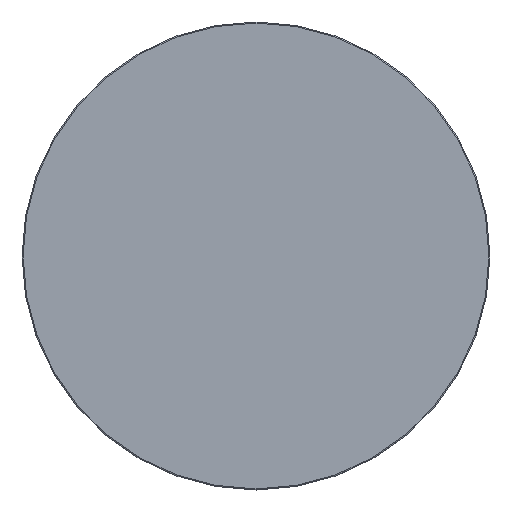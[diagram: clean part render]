
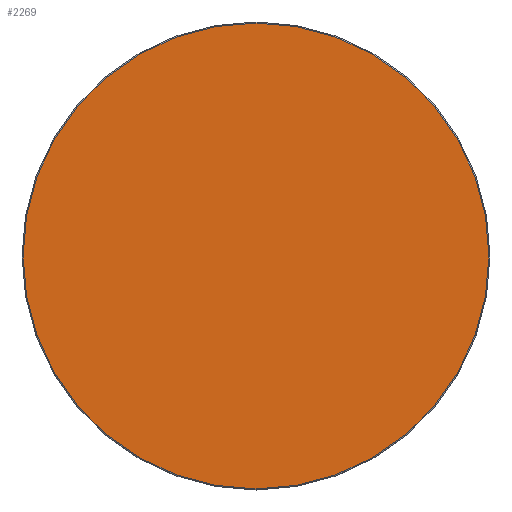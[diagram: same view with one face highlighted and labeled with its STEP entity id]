
A CAD part, top view. The second image highlights one B-rep face of the part: STEP entity #2269.
In plain terms, the highlighted planar face has unit normal (0, 0, 1).
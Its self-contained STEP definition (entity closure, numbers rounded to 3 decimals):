
#529=PLANE('',#2691);
#943=ORIENTED_EDGE('',*,*,#1311,.T.);
#1311=EDGE_CURVE('',#1529,#1529,#1657,.F.);
#1529=VERTEX_POINT('',#4062);
#1657=CIRCLE('',#2692,224.);
#1835=EDGE_LOOP('',(#943));
#2049=FACE_BOUND('',#1835,.T.);
#2269=ADVANCED_FACE('',(#2049),#529,.F.);
#2691=AXIS2_PLACEMENT_3D('',#4060,#3310,#3311);
#2692=AXIS2_PLACEMENT_3D('',#4061,#3312,#3313);
#3310=DIRECTION('',(0.,0.,-1.));
#3311=DIRECTION('',(-1.,0.,0.));
#3312=DIRECTION('',(0.,0.,-1.));
#3313=DIRECTION('',(-1.,0.,0.));
#4060=CARTESIAN_POINT('',(0.,0.,500.));
#4061=CARTESIAN_POINT('',(0.,0.,500.));
#4062=CARTESIAN_POINT('',(-224.,0.,500.));
